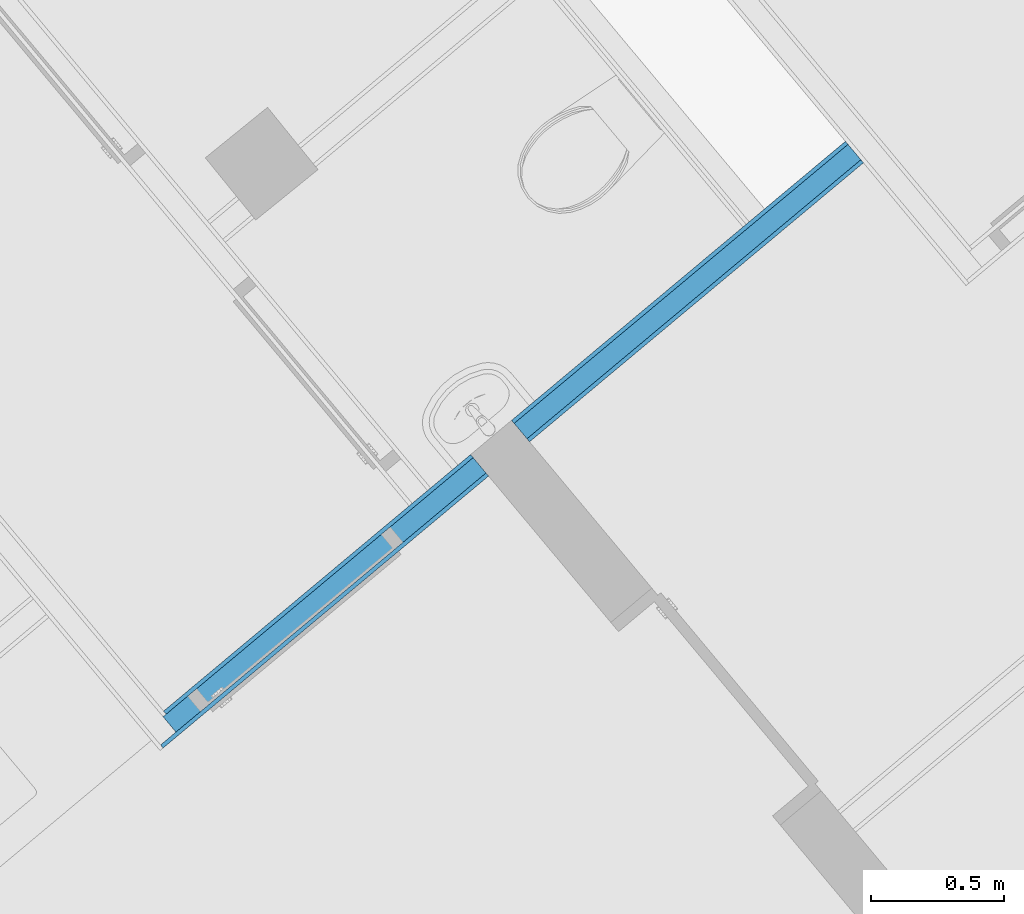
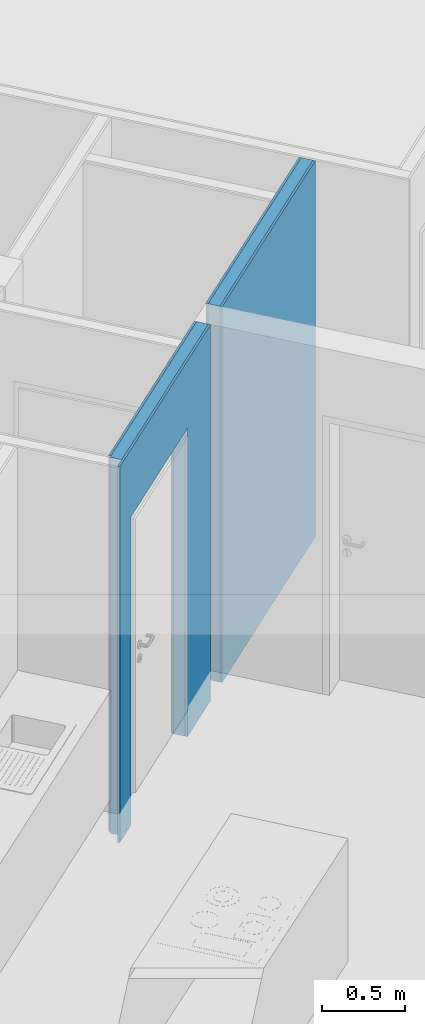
# One storey, part 10 of 58: 3 building element parts, 1 opening, 1 element without a shape of its own.
"""IFC4 building model written with IfcOpenShell, lengths in metres."""

from ifc_helpers import new_model, entity, si_unit, converted_unit, derived_unit, direction, frame, origin_with_axes, place, context, subcontext, project, spatial, polygons, material, type_object, element, aggregate, save


model = new_model("IFC4")

# Units and contexts
model_context = context("Model", 3, precision=1e-05, world=origin_with_axes(), true_north=direction((0.0, 1.0)))
body_context = subcontext(model_context, "Body", "Model", "MODEL_VIEW")
ifc_project = project(units=[si_unit("LENGTHUNIT", "METRE"), si_unit("AREAUNIT", "SQUARE_METRE"), si_unit("VOLUMEUNIT", "CUBIC_METRE"), converted_unit("PLANEANGLEUNIT", "DEGREE", entity("IfcPlaneAngleMeasure", 0.0174532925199), si_unit("PLANEANGLEUNIT", "RADIAN"), dimensions=[0, 0, 0, 0, 0, 0, 0]), converted_unit("TIMEUNIT", "Year", entity("IfcTimeMeasure", 31556926.0), si_unit("TIMEUNIT", "SECOND"), dimensions=[0, 0, 1, 0, 0, 0, 0]), si_unit("MASSUNIT", "GRAM", prefix="KILO"), si_unit("THERMODYNAMICTEMPERATUREUNIT", "DEGREE_CELSIUS"), si_unit("LUMINOUSINTENSITYUNIT", "LUMEN"), si_unit("ENERGYUNIT", "JOULE", prefix="MEGA"), derived_unit("THERMALCONDUCTANCEUNIT", [(si_unit("POWERUNIT", "WATT"), 1), (si_unit("LENGTHUNIT", "METRE"), -1), (si_unit("THERMODYNAMICTEMPERATUREUNIT", "KELVIN"), -1)]), derived_unit("SPECIFICHEATCAPACITYUNIT", [(si_unit("ENERGYUNIT", "JOULE"), 1), (si_unit("MASSUNIT", "GRAM", prefix="KILO"), -1), (si_unit("THERMODYNAMICTEMPERATUREUNIT", "KELVIN"), -1)]), derived_unit("MASSDENSITYUNIT", [(si_unit("MASSUNIT", "GRAM", prefix="KILO"), 1), (si_unit("VOLUMEUNIT", "CUBIC_METRE"), -1)])], contexts=[model_context])

# Site, building, storey
site_placement = place(None, frame((-0.00153261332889, -0.00661245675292, 0.0), z_axis=(0.0, 0.0, 1.0), x_axis=(1.0, 0.0, 0.0)))
site = spatial("IfcSite", under=ifc_project, at=site_placement, Name="Site", CompositionType="ELEMENT")
building_placement = place(site_placement, origin_with_axes())
building = spatial("IfcBuilding", under=site, at=building_placement, Name="Building", CompositionType="ELEMENT")
storey_placement = place(building_placement, frame((0.0, 0.0, 5.7), z_axis=(0.0, 0.0, 1.0), x_axis=(1.0, 0.0, 0.0)))
storey = spatial("IfcBuildingStorey", under=building, at=storey_placement, Name="DG1", CompositionType="ELEMENT", Elevation=5.7)

# Wall, opening, building element parts
wall_type = type_object("IfcWallType", Name="IW LB 01 Leichtbautrennwand einfach 10,5 cm 105", PredefinedType="NOTDEFINED")
wall_placement = place(storey_placement, frame((-2.08312731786, 16.7658353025, 0.0), z_axis=(0.0, 0.0, 1.0), x_axis=(0.767365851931, 0.641209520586, 0.0)))
wall = element("IfcWall", 1, at=wall_placement, inside=storey, type_object=wall_type, Name="Wand-012", PredefinedType="NOTDEFINED")
opening_placement = place(wall_placement, frame((0.704535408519, 0.0, 0.22), z_axis=(0.0, 0.0, 1.0), x_axis=(1.0, 0.0, 0.0)))
element("IfcOpeningElement", 2, at=opening_placement, cuts=wall, Name="Tür-017", context=body_context, identifier="Reference", shape_type="Tessellation", body=[
    polygons([(0.495, 1.6911768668, 2.045), (0.495, 1.6911768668, -0.22), (-0.495, 1.6911768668, -0.22), (-0.495, 1.6911768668, 2.045), (0.495, -1.7961768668, 2.045), (0.495, -1.7961768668, -0.22), (-0.495, -1.7961768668, -0.22), (-0.495, -1.7961768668, 2.045)], [[[1, 2, 3, 4]], [[5, 6, 2, 1]], [[6, 7, 3, 2]], [[7, 8, 4, 3]], [[8, 5, 1, 4]], [[7, 6, 5, 8]]], closed=True),
])
ifc_material_1 = material(Name="Gipskarton")
building_element_part_1_placement = place(wall_placement, origin_with_axes())
building_element_part_1 = element("IfcBuildingElementPart", 3, at=building_element_part_1_placement, material=ifc_material_1, Name="Gipskarton", PredefinedType="NOTDEFINED", context=body_context, shape_type="Tessellation", body=[
    polygons([(0.209535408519, -0.015, 0.22), (0.209535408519, -0.015, 2.265), (1.19953540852, -0.015, 2.265), (1.19953540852, -0.015, 0.22), (1.19953540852, -0.015, 0.0), (1.60433833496, -0.015, 0.0), (1.60433833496, -0.015, 2.76), (0.105, -0.015, 2.76), (0.105, -0.015, 0.0), (0.209535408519, -0.015, 0.0), (0.209535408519, 2.04706811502e-08, 0.22), (0.209535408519, -1.05558584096e-07, 2.265), (1.19953540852, -1.0555858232e-07, 2.265), (1.19953540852, -1.0555858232e-07, 0.22), (1.19953540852, -1.05558584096e-07, 0.0), (1.60433833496, 0.0, 0.0), (1.60433833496, 0.0, 2.76), (0.105, 0.0, 2.76), (0.105, 0.0, 0.0), (0.209535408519, 2.04706811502e-08, 0.0)], [[[1, 2, 3, 4, 5, 6, 7, 8, 9, 10]], [[2, 1, 11, 12]], [[3, 2, 12, 13]], [[4, 3, 13, 14]], [[4, 14, 15, 5]], [[15, 16, 6, 5]], [[7, 6, 16, 17]], [[17, 18, 8, 7]], [[8, 18, 19, 9]], [[10, 9, 19, 20]], [[11, 1, 10, 20]], [[12, 11, 20, 19, 18, 17, 16, 15, 14, 13]]], closed=True),
    polygons([(3.43502357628, 0.0, 2.76), (1.80433833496, 0.0, 2.76), (1.80433833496, -0.015, 2.76), (3.43502357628, -0.015, 2.76), (3.43502357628, 0.0, 0.0), (1.80433833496, 0.0, 0.0), (1.80433833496, -0.015, 0.0), (3.43502357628, -0.015, 0.0)], [[[1, 2, 3, 4]], [[5, 6, 2, 1]], [[3, 2, 6, 7]], [[4, 3, 7, 8]], [[4, 8, 5, 1]], [[8, 7, 6, 5]]], closed=True),
])
ifc_material_2 = material(Name="Mineralwolle weich")
building_element_part_2_placement = place(wall_placement, origin_with_axes())
building_element_part_2 = element("IfcBuildingElementPart", 4, at=building_element_part_2_placement, material=ifc_material_2, Name="Mineralwolle weich", PredefinedType="NOTDEFINED", context=body_context, shape_type="Tessellation", body=[
    polygons([(0.209535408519, -0.09, 0.22), (0.209535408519, -0.09, 2.265), (1.19953540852, -0.09, 2.265), (1.19953540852, -0.09, 0.22), (1.19953540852, -0.09, 0.0), (1.60433833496, -0.09, 0.0), (1.60433833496, -0.09, 2.76), (0.089999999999, -0.09, 2.76), (0.089999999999, -0.09, 0.0), (0.209535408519, -0.09, 0.0), (0.209535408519, -0.015, 0.22), (0.209535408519, -0.015, 2.265), (1.19953540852, -0.015, 2.265), (1.19953540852, -0.015, 0.22), (1.19953540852, -0.015, 0.0), (1.60433833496, -0.015, 0.0), (1.60433833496, -0.015, 2.76), (0.0899999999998, -0.015, 2.76), (0.0899999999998, -0.015, 0.0), (0.209535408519, -0.015, 0.0)], [[[1, 2, 3, 4, 5, 6, 7, 8, 9, 10]], [[2, 1, 11, 12]], [[3, 2, 12, 13]], [[4, 3, 13, 14]], [[4, 14, 15, 5]], [[15, 16, 6, 5]], [[7, 6, 16, 17]], [[17, 18, 8, 7]], [[8, 18, 19, 9]], [[10, 9, 19, 20]], [[11, 1, 10, 20]], [[12, 11, 20, 19, 18, 17, 16, 15, 14, 13]]], closed=True),
    polygons([(3.43502357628, -0.015, 2.76), (1.80433833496, -0.015, 2.76), (1.80433833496, -0.09, 2.76), (3.43502357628, -0.09, 2.76), (3.43502357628, -0.015, 0.0), (1.80433833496, -0.015, 0.0), (1.80433833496, -0.09, 0.0), (3.43502357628, -0.09, 0.0)], [[[1, 2, 3, 4]], [[5, 6, 2, 1]], [[3, 2, 6, 7]], [[4, 3, 7, 8]], [[4, 8, 5, 1]], [[8, 7, 6, 5]]], closed=True),
])
building_element_part_3_placement = place(wall_placement, origin_with_axes())
building_element_part_3 = element("IfcBuildingElementPart", 5, at=building_element_part_3_placement, material=ifc_material_1, Name="Gipskarton", PredefinedType="NOTDEFINED", context=body_context, shape_type="Tessellation", body=[
    polygons([(0.209535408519, -0.105, 0.22), (0.209535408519, -0.105, 2.265), (1.19953540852, -0.105, 2.265), (1.19953540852, -0.105, 0.22), (1.19953540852, -0.105, 0.0), (1.60433833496, -0.105, 0.0), (1.60433833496, -0.105, 2.76), (0.0149999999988, -0.105, 2.76), (0.0149999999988, -0.105, 0.0), (0.209535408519, -0.105, 0.0), (0.209535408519, -0.09, 0.22), (0.209535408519, -0.09, 2.265), (1.19953540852, -0.09, 2.265), (1.19953540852, -0.09, 0.22), (1.19953540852, -0.09, 0.0), (1.60433833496, -0.09, 0.0), (1.60433833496, -0.09, 2.76), (0.014999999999, -0.09, 2.76), (0.014999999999, -0.09, 0.0), (0.209535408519, -0.09, 0.0)], [[[1, 2, 3, 4, 5, 6, 7, 8, 9, 10]], [[2, 1, 11, 12]], [[3, 2, 12, 13]], [[4, 3, 13, 14]], [[4, 14, 15, 5]], [[15, 16, 6, 5]], [[7, 6, 16, 17]], [[17, 18, 8, 7]], [[8, 18, 19, 9]], [[10, 9, 19, 20]], [[11, 1, 10, 20]], [[12, 11, 20, 19, 18, 17, 16, 15, 14, 13]]], closed=True),
    polygons([(3.43502357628, -0.09, 2.76), (1.80433833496, -0.09, 2.76), (1.80433833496, -0.105, 2.76), (3.43502357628, -0.105, 2.76), (3.43502357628, -0.09, 0.0), (1.80433833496, -0.09, 0.0), (1.80433833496, -0.105, 0.0), (3.43502357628, -0.105, 0.0)], [[[1, 2, 3, 4]], [[5, 6, 2, 1]], [[3, 2, 6, 7]], [[4, 3, 7, 8]], [[4, 8, 5, 1]], [[8, 7, 6, 5]]], closed=True),
])
aggregate(wall, [building_element_part_1, building_element_part_2, building_element_part_3])

save(model, "model.ifc")
